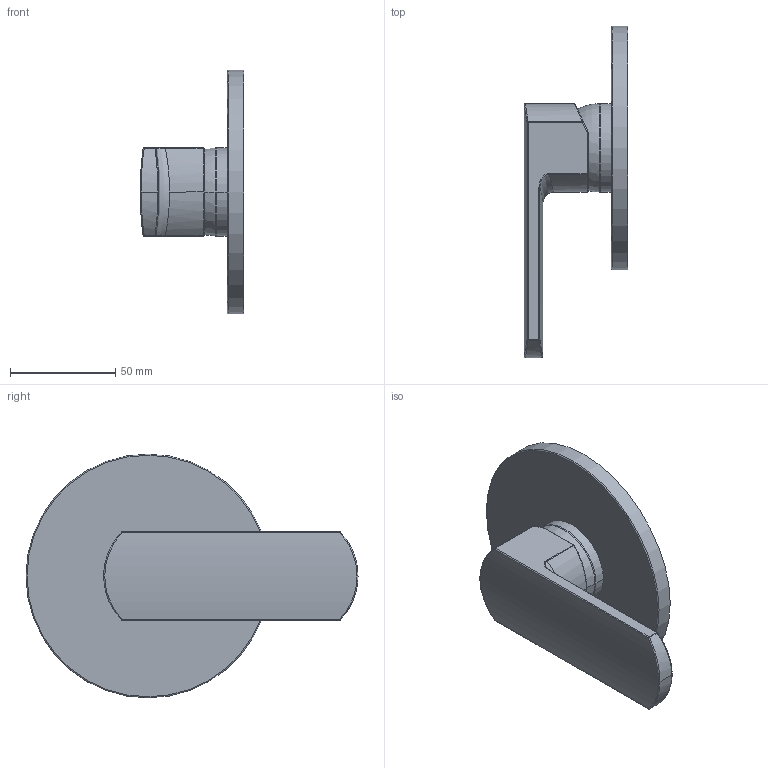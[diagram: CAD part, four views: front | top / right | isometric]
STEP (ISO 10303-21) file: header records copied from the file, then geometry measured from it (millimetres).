
FILE_DESCRIPTION(('STEP AP242'), '1');
FILE_NAME('86xx690', '', ('UNSPECIFIED'), ('UNSPECIFIED'), 'ASCON STEP Converter 1.6', 'ASCON Math Kernel', '');
FILE_SCHEMA(('AP242_MANAGED_MODEL_BASED_3D_ENGINEERING_MIM_LF { 1 0 10303 442 1 1 4 }'));
Length unit declared in the file: millimetre
Products named in the file (2): tr
Assembly tree (1 placements, depth 2):
  (unnamed)
    tr
Bounding box: 49.41 x 158 x 116 mm (x, y, z)
Volume: 171732.5 mm3; surface area: 38165.4 mm2
Topology: 1 solids, 2 shells, 67 faces, 152 edges, 75 vertices
Faces by surface type: cylinder 25, bspline 20, torus 12, plane 6, sphere 4
Full cylindrical faces by diameter (mm): 116 x1
Entity records: 4615 total; most frequent: CARTESIAN_POINT 2709, ORIENTED_EDGE 274, DIRECTION 249, EDGE_CURVE 137, AXIS2_PLACEMENT_3D 107, VERTEX_POINT 75, EDGE_LOOP 70, COLOUR_RGB 68
